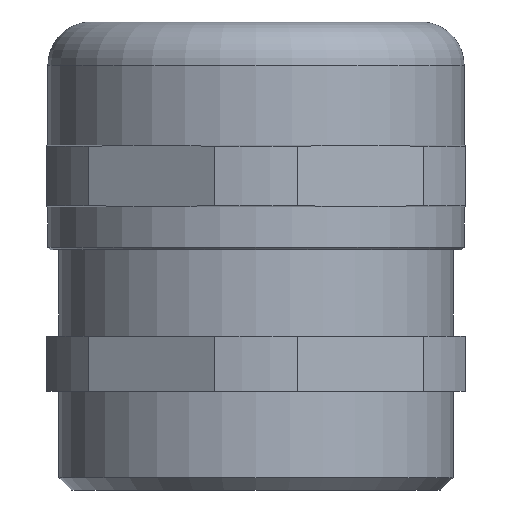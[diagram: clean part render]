
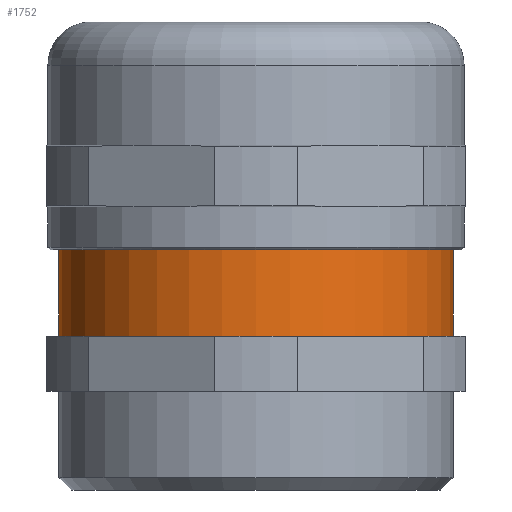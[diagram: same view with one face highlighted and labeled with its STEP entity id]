
A CAD part, front view. The second image highlights one B-rep face of the part: STEP entity #1752.
In plain terms, the highlighted cylindrical face has radius 16 mm (diameter 32 mm), a partial arc.
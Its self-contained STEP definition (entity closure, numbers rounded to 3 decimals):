
#258 = CARTESIAN_POINT ( 'NONE',  ( 16., 0., 12.5 ) ) ;
#302 = DIRECTION ( 'NONE',  ( 0., 0., -1. ) ) ;
#303 = VECTOR ( 'NONE', #302, 1000. ) ;
#304 = CARTESIAN_POINT ( 'NONE',  ( 16., 0., 0. ) ) ;
#305 = LINE ( 'NONE', #304, #303 ) ;
#325 = CARTESIAN_POINT ( 'NONE',  ( 16., 0., 19.5 ) ) ;
#368 = CARTESIAN_POINT ( 'NONE',  ( -16., 0., 19.5 ) ) ;
#378 = DIRECTION ( 'NONE',  ( 0., 0., -1. ) ) ;
#379 = VECTOR ( 'NONE', #378, 1000. ) ;
#380 = CARTESIAN_POINT ( 'NONE',  ( -16., 0., 0. ) ) ;
#381 = LINE ( 'NONE', #380, #379 ) ;
#423 = CARTESIAN_POINT ( 'NONE',  ( -16., 0., 12.5 ) ) ;
#1249 = DIRECTION ( 'NONE',  ( 0., 0., -1. ) ) ;
#1252 = DIRECTION ( 'NONE',  ( -1., 0., 0. ) ) ;
#1255 = CYLINDRICAL_SURFACE ( 'NONE', #1258, 16. ) ;
#1257 = CARTESIAN_POINT ( 'NONE',  ( 0., 0., 0. ) ) ;
#1258 = AXIS2_PLACEMENT_3D ( 'NONE', #1257, #1249, #1252 ) ;
#1259 = FACE_OUTER_BOUND ( 'NONE', #1804, .T. ) ;
#1665 = DIRECTION ( 'NONE',  ( -1., 0., 0. ) ) ;
#1688 = CARTESIAN_POINT ( 'NONE',  ( 0., 0., 12.5 ) ) ;
#1690 = DIRECTION ( 'NONE',  ( 0., 0., -1. ) ) ;
#1691 = CARTESIAN_POINT ( 'NONE',  ( 0., 0., 19.5 ) ) ;
#1692 = AXIS2_PLACEMENT_3D ( 'NONE', #1691, #1690, #1665 ) ;
#1693 = CIRCLE ( 'NONE', #1692, 16. ) ;
#1701 = DIRECTION ( 'NONE',  ( -1., 0., 0. ) ) ;
#1702 = DIRECTION ( 'NONE',  ( 0., 0., -1. ) ) ;
#1703 = AXIS2_PLACEMENT_3D ( 'NONE', #1688, #1702, #1701 ) ;
#1704 = CIRCLE ( 'NONE', #1703, 16. ) ;
#1752 = ADVANCED_FACE ( 'NONE', ( #1259 ), #1255, .T. ) ;
#1792 = ORIENTED_EDGE ( 'NONE', *, *, #2075, .T. ) ;
#1793 = ORIENTED_EDGE ( 'NONE', *, *, #1799, .F. ) ;
#1795 = ORIENTED_EDGE ( 'NONE', *, *, #2017, .F. ) ;
#1799 = EDGE_CURVE ( 'NONE', #2015, #2087, #1704, .T. ) ;
#1804 = EDGE_LOOP ( 'NONE', ( #1795, #1805, #1792, #1793 ) ) ;
#1805 = ORIENTED_EDGE ( 'NONE', *, *, #1806, .T. ) ;
#1806 = EDGE_CURVE ( 'NONE', #2041, #2050, #1693, .T. ) ;
#2015 = VERTEX_POINT ( 'NONE', #258 ) ;
#2017 = EDGE_CURVE ( 'NONE', #2041, #2015, #305, .T. ) ;
#2041 = VERTEX_POINT ( 'NONE', #325 ) ;
#2050 = VERTEX_POINT ( 'NONE', #368 ) ;
#2075 = EDGE_CURVE ( 'NONE', #2050, #2087, #381, .T. ) ;
#2087 = VERTEX_POINT ( 'NONE', #423 ) ;
